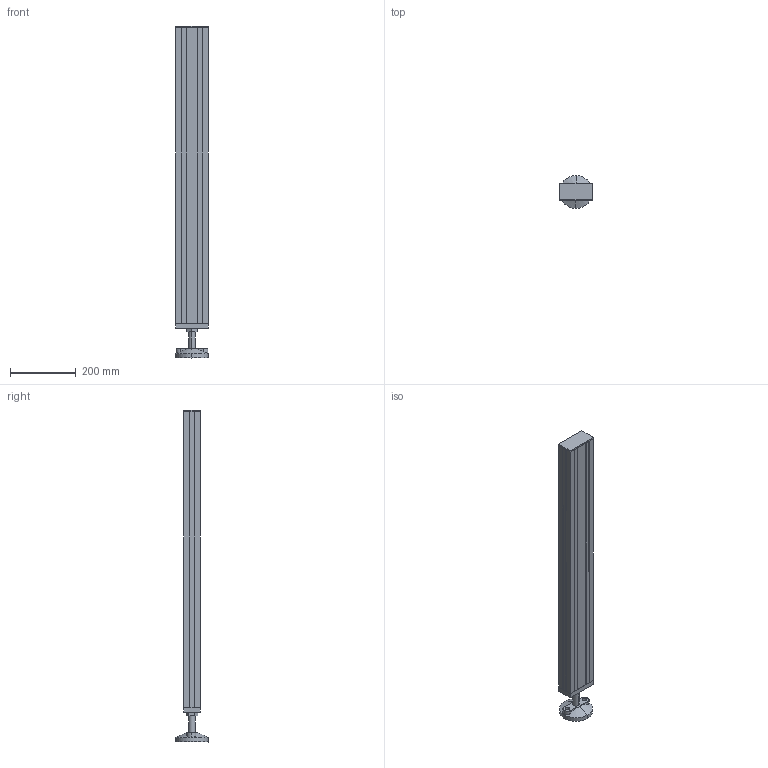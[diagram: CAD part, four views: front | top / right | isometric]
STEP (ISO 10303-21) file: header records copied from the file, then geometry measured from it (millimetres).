
FILE_DESCRIPTION (( 'STEP AP214' ), '1' );
FILE_NAME ('PIL5010SNN-900MM.STEP', '2021-03-08T22:53:21', ( '' ), ( '' ), 'SwSTEP 2.0', 'SolidWorks 2021', '' );
FILE_SCHEMA (( 'AUTOMOTIVE_DESIGN' ));
Length unit declared in the file: millimetre
Products named in the file (1): PIL5010SNN-900MM
Bounding box: 100 x 99.87 x 1010 mm (x, y, z)
Volume: 2728259.6 mm3; surface area: 1074890.2 mm2
Topology: 9 solids, 9 shells, 207 faces, 548 edges, 364 vertices
Faces by surface type: plane 175, cylinder 26, cone 6
Entity records: 9379 total; most frequent: CARTESIAN_POINT 1796, ORIENTED_EDGE 1096, DIRECTION 1002, EDGE_CURVE 548, LINE 486, VECTOR 486, VERTEX_POINT 364, AXIS2_PLACEMENT_3D 258
